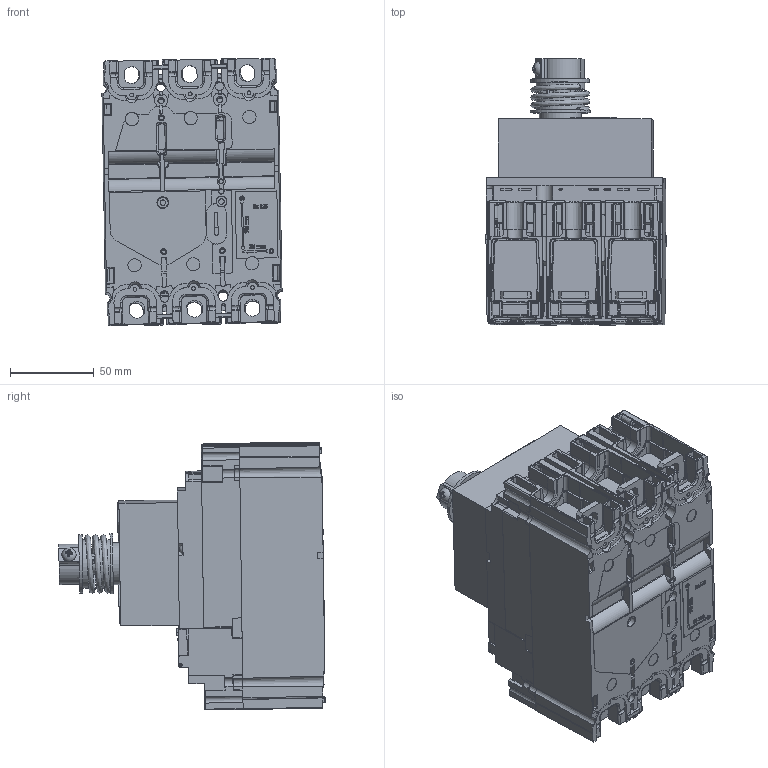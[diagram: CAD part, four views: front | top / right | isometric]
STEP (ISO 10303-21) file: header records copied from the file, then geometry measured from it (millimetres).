
FILE_DESCRIPTION(('STEP AP242'), '1');
FILE_NAME('ÂÀ11-02 ñòàö. èñï. + îñíîâàíèå âûíîñíîé ðóêîÿòêè', '', ('UNSPECIFIED'), ('UNSPECIFIED'), 'C3D Converter', 'C3D Toolkit', '');
FILE_SCHEMA(('AP242_MANAGED_MODEL_BASED_3D_ENGINEERING_MIM_LF { 1 0 10303 442 1 1 4 }'));
Length unit declared in the file: millimetre
Bounding box: 107.37 x 158.83 x 159.69 mm (x, y, z)
Volume: 262008.4 mm3; surface area: 252588.7 mm2
Topology: 4 solids, 4 shells, 5665 faces, 15707 edges, 10096 vertices
Faces by surface type: plane 2958, cylinder 2152, bspline 302, torus 114, cone 94, sphere 45
Full cylindrical faces by diameter (mm): 1.5 x2, 1.6 x2, 2 x1, 2.3 x8, 2.4 x1, 2.5 x6, 2.6 x2, 2.8 x2, 2.9 x2, 3 x13, 3.25 x2, 3.3 x3, 3.5 x5, 3.6 x1, 3.7 x3, 4 x1, 4.5 x3, 4.8 x1, 4.9 x1, 5 x1, 5.3 x1, 5.5 x2, 5.6 x2, 6 x1, 6.1 x2, 6.3 x2, 7 x4, 7.2 x1, 7.9 x6, 8.5 x3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
Entity records: 261833 total; most frequent: CARTESIAN_POINT 74939, ORIENTED_EDGE 31130, DIRECTION 27851, EDGE_CURVE 15565, VERTEX_POINT 10093, LINE 9763, VECTOR 9763, AXIS2_PLACEMENT_3D 9044
